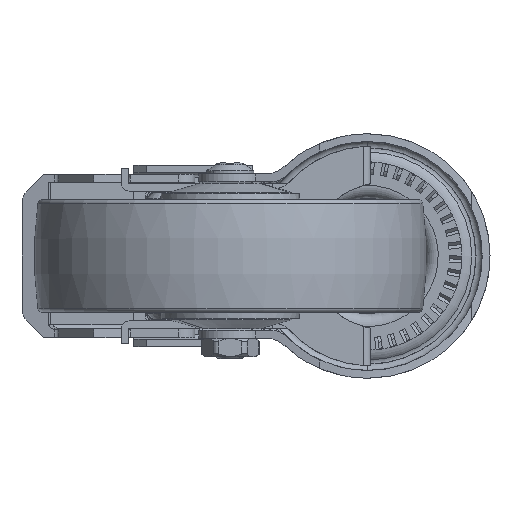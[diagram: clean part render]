
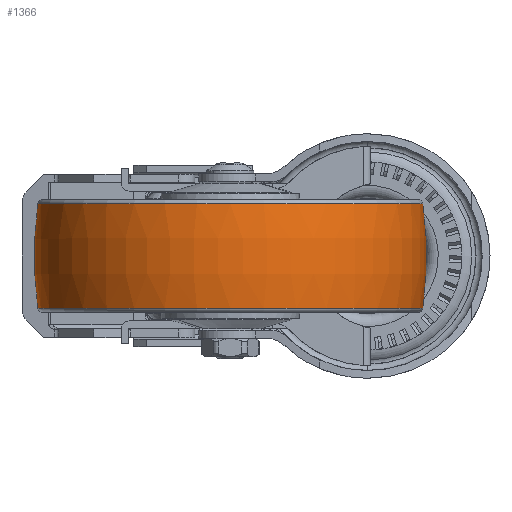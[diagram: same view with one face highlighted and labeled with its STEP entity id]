
A CAD part, front view. The second image highlights one B-rep face of the part: STEP entity #1366.
In plain terms, the highlighted toroidal (fillet/blend) face has major radius 62.5 mm and minor radius 125 mm.
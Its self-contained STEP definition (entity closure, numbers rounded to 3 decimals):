
#1314 = EDGE_LOOP ( 'NONE', ( #1317, #1369, #1371, #1324 ) ) ;
#1317 = ORIENTED_EDGE ( 'NONE', *, *, #19479, .F. ) ;
#1324 = ORIENTED_EDGE ( 'NONE', *, *, #1370, .F. ) ;
#1325 = EDGE_CURVE ( 'NONE', #19492, #18830, #8247, .T. ) ;
#1366 = ADVANCED_FACE ( 'NONE', ( #8310 ), #8033, .T. ) ;
#1369 = ORIENTED_EDGE ( 'NONE', *, *, #1325, .T. ) ;
#1370 = EDGE_CURVE ( 'NONE', #19065, #18746, #8342, .T. ) ;
#1371 = ORIENTED_EDGE ( 'NONE', *, *, #19344, .T. ) ;
#8033 = TOROIDAL_SURFACE ( 'NONE', #8049, -62.5, 125. ) ;
#8039 = DIRECTION ( 'NONE',  ( 0., 0., -1. ) ) ;
#8040 = CARTESIAN_POINT ( 'NONE',  ( -121.73, -81.372, 52.767 ) ) ;
#8043 = DIRECTION ( 'NONE',  ( -1., 0., 0. ) ) ;
#8049 = AXIS2_PLACEMENT_3D ( 'NONE', #8040, #8039, #8043 ) ;
#8228 = DIRECTION ( 'NONE',  ( -1., 0., 0. ) ) ;
#8229 = DIRECTION ( 'NONE',  ( 0., 0., -1. ) ) ;
#8230 = CARTESIAN_POINT ( 'NONE',  ( -121.73, -81.372, 69.467 ) ) ;
#8247 = CIRCLE ( 'NONE', #8249, 61.379 ) ;
#8249 = AXIS2_PLACEMENT_3D ( 'NONE', #8230, #8229, #8228 ) ;
#8310 = FACE_OUTER_BOUND ( 'NONE', #1314, .T. ) ;
#8331 = DIRECTION ( 'NONE',  ( -1., 0., 0. ) ) ;
#8332 = DIRECTION ( 'NONE',  ( 0., 0., -1. ) ) ;
#8333 = CARTESIAN_POINT ( 'NONE',  ( -121.73, -81.372, 36.067 ) ) ;
#8334 = AXIS2_PLACEMENT_3D ( 'NONE', #8333, #8332, #8331 ) ;
#8342 = CIRCLE ( 'NONE', #8334, 61.379 ) ;
#18746 = VERTEX_POINT ( 'NONE', #19314 ) ;
#18830 = VERTEX_POINT ( 'NONE', #19306 ) ;
#19065 = VERTEX_POINT ( 'NONE', #19353 ) ;
#19306 = CARTESIAN_POINT ( 'NONE',  ( -183.109, -81.372, 69.467 ) ) ;
#19314 = CARTESIAN_POINT ( 'NONE',  ( -183.109, -81.372, 36.067 ) ) ;
#19341 = CIRCLE ( 'NONE', #19383, 125. ) ;
#19344 = EDGE_CURVE ( 'NONE', #18830, #18746, #19341, .T. ) ;
#19353 = CARTESIAN_POINT ( 'NONE',  ( -60.351, -81.372, 36.067 ) ) ;
#19373 = CARTESIAN_POINT ( 'NONE',  ( -184.23, -81.372, 52.767 ) ) ;
#19374 = CIRCLE ( 'NONE', #19420, 125. ) ;
#19381 = DIRECTION ( 'NONE',  ( 0., 0., -1. ) ) ;
#19382 = DIRECTION ( 'NONE',  ( 0., -1., 0. ) ) ;
#19383 = AXIS2_PLACEMENT_3D ( 'NONE', #19390, #19382, #19381 ) ;
#19390 = CARTESIAN_POINT ( 'NONE',  ( -59.23, -81.372, 52.767 ) ) ;
#19417 = CARTESIAN_POINT ( 'NONE',  ( -60.351, -81.372, 69.467 ) ) ;
#19418 = DIRECTION ( 'NONE',  ( -1., 0., 0. ) ) ;
#19419 = DIRECTION ( 'NONE',  ( 0., 1., 0. ) ) ;
#19420 = AXIS2_PLACEMENT_3D ( 'NONE', #19373, #19419, #19418 ) ;
#19479 = EDGE_CURVE ( 'NONE', #19492, #19065, #19374, .T. ) ;
#19492 = VERTEX_POINT ( 'NONE', #19417 ) ;
